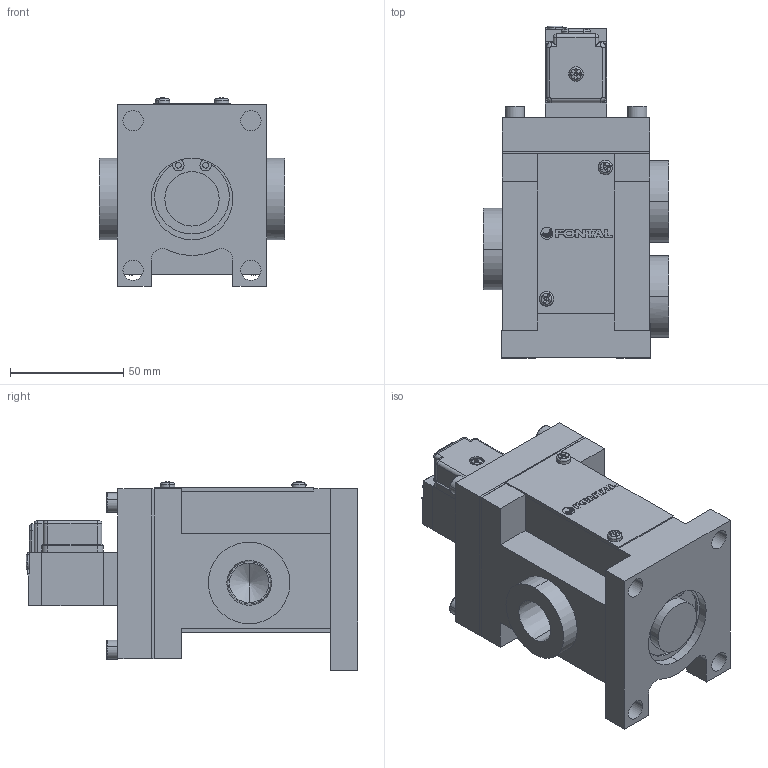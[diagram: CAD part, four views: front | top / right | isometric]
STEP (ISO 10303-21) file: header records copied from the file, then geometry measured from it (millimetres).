
FILE_DESCRIPTION (( 'STEP AP203' ), '1' );
FILE_NAME ('PMS2315#-04-#G#.STEP', '2016-03-09T08:20:28', ( 'Sam Lin' ), ( '' ), 'SwSTEP 2.0', 'SolidWorks 2013', '' );
FILE_SCHEMA (( 'CONFIG_CONTROL_DESIGN' ));
Length unit declared in the file: metre
Products named in the file (16): PM06-C5_1; PM15-MARK; PM06-G1; PM06-C3-M4_1; PMS2315-5; PMS2315-3; PMS2315-6; ISO 4762 M5 x 20; PMS2315-7; PMS2315-4; PMS2315#-04-#G#; PM06-C1_1; PM06-C4_1; PMS2315-1; PM06-C6-M3_1; PMS2315-2
Assembly tree (22 placements, depth 2):
  PMS2315#-04-#G#
    PMS2315-1
    PMS2315-2
    PM15-MARK
    PM06-C3-M4_1  x3
    PMS2315-3
    ISO 4762 M5 x 20  x5
    PMS2315-4
    PM06-C1_1
    PM06-C4_1
    PM06-C6-M3_1  x2
    PM06-C5_1
    PM06-G1
    PMS2315-5
    PMS2315-6
    PMS2315-7
Bounding box: 82 x 146.5 x 83.05 mm (x, y, z)
Volume: 460720.4 mm3; surface area: 94209.8 mm2
Topology: 28 solids, 28 shells, 655 faces, 1587 edges, 992 vertices
Faces by surface type: plane 351, cylinder 153, cone 77, bspline 70, torus 4
Entity records: 16132 total; most frequent: CARTESIAN_POINT 3769, DIRECTION 2200, ORIENTED_EDGE 2146, EDGE_CURVE 1073, AXIS2_PLACEMENT_3D 786, VERTEX_POINT 691, VECTOR 628, LINE 628
